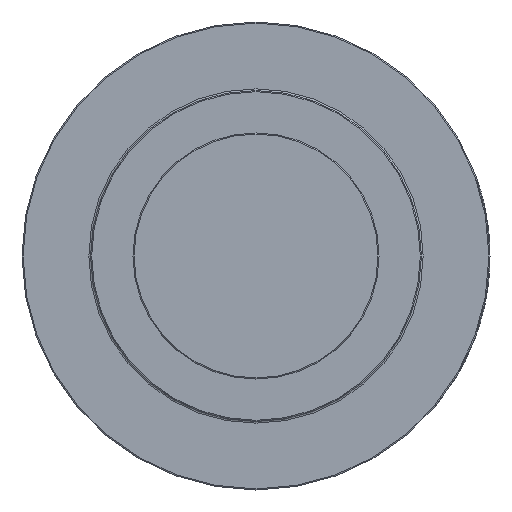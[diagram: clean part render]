
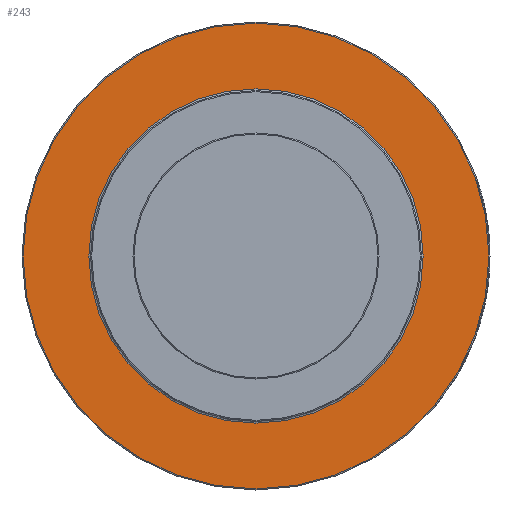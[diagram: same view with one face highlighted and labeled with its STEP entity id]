
A CAD part, left-side view. The second image highlights one B-rep face of the part: STEP entity #243.
In plain terms, the highlighted planar face has unit normal (-1, 0, 0).
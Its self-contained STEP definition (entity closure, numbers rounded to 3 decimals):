
#243 = ADVANCED_FACE( '', ( #689, #690 ), #691, .T. );
#689 = FACE_OUTER_BOUND( '', #1388, .T. );
#690 = FACE_BOUND( '', #1389, .T. );
#691 = PLANE( '', #1390 );
#1388 = EDGE_LOOP( '', ( #3538 ) );
#1389 = EDGE_LOOP( '', ( #3539 ) );
#1390 = AXIS2_PLACEMENT_3D( '', #3540, #3541, #3542 );
#3538 = ORIENTED_EDGE( '', *, *, #5284, .T. );
#3539 = ORIENTED_EDGE( '', *, *, #5285, .F. );
#3540 = CARTESIAN_POINT( '', ( 63.77, 0., 77.095 ) );
#3541 = DIRECTION( '', ( -1., 0., 0. ) );
#3542 = DIRECTION( '', ( 0., 0., 1. ) );
#5284 = EDGE_CURVE( '', #6025, #6025, #6026, .T. );
#5285 = EDGE_CURVE( '', #6027, #6027, #6028, .T. );
#6025 = VERTEX_POINT( '', #7128 );
#6026 = CIRCLE( '', #7129, 107.442 );
#6027 = VERTEX_POINT( '', #7130 );
#6028 = CIRCLE( '', #7131, 77.095 );
#7128 = CARTESIAN_POINT( '', ( 63.77, 0., 107.442 ) );
#7129 = AXIS2_PLACEMENT_3D( '', #9868, #9869, #9870 );
#7130 = CARTESIAN_POINT( '', ( 63.77, 0., 77.095 ) );
#7131 = AXIS2_PLACEMENT_3D( '', #9871, #9872, #9873 );
#9868 = CARTESIAN_POINT( '', ( 63.77, 0., 0. ) );
#9869 = DIRECTION( '', ( -1., 0., 0. ) );
#9870 = DIRECTION( '', ( 0., 0., 1. ) );
#9871 = CARTESIAN_POINT( '', ( 63.77, 0., 0. ) );
#9872 = DIRECTION( '', ( -1., 0., 0. ) );
#9873 = DIRECTION( '', ( 0., 0., 1. ) );
